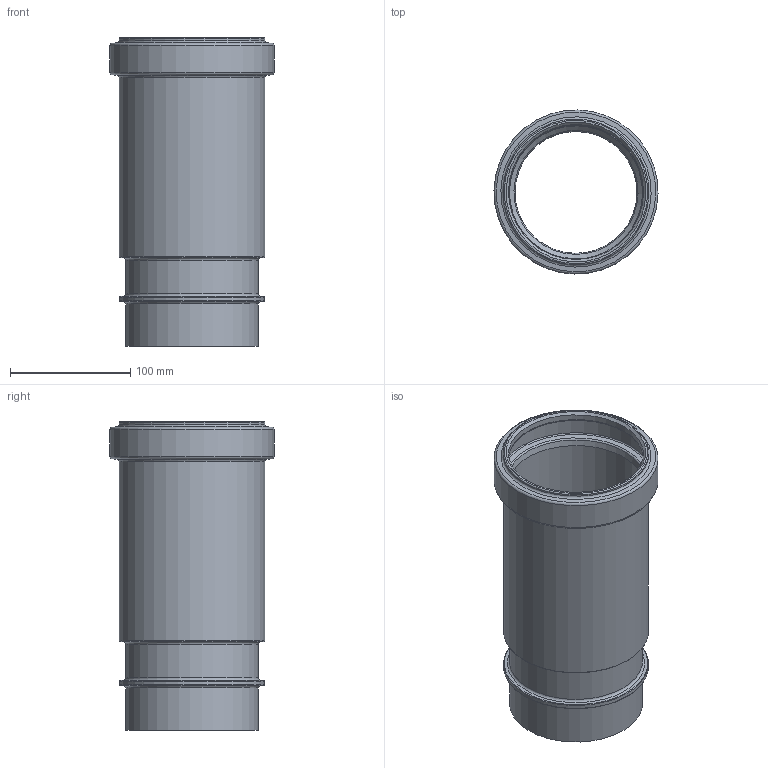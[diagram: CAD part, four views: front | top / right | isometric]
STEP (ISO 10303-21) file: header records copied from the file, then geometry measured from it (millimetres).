
FILE_DESCRIPTION(/* description */ (''),/* implementation_level */ '2;1');
FILE_NAME(/* name */ 'C:\Planerdaten\Export PLA\367.700.16.1\stp\367700.stp',/* time_stamp */ '2020-07-07T08:50:58+02:00',/* author */ ('JANAN'),/* organization */ (''),/* preprocessor_version */ 'ST-DEVELOPER v16.13',/* originating_system */ 'Autodesk Inventor 2018',/* authorisation */ '');
FILE_SCHEMA (('AUTOMOTIVE_DESIGN { 1 0 10303 214 3 1 1 }'));
Length unit declared in the file: millimetre
Products named in the file (1): Langmuffe m/Doppelbund PE-HD d110
Bounding box: 136.31 x 136.31 x 256.37 mm (x, y, z)
Volume: 456268.1 mm3; surface area: 201025.1 mm2
Topology: 1 solids, 1 shells, 39 faces, 88 edges, 51 vertices
Faces by surface type: torus 17, cylinder 10, cone 10, plane 2
Full cylindrical faces by diameter (mm): 101.35 x1, 110.4 x2, 111.7 x1, 112.2 x1, 120.4 x1, 120.75 x1, 121.25 x1, 127.3 x1, 136.35 x1
Entity records: 860 total; most frequent: DIRECTION 158, CARTESIAN_POINT 118, AXIS2_PLACEMENT_3D 79, EDGE_LOOP 78, ORIENTED_EDGE 78, STYLED_ITEM 40, FACE_BOUND 39, FACE_OUTER_BOUND 39
